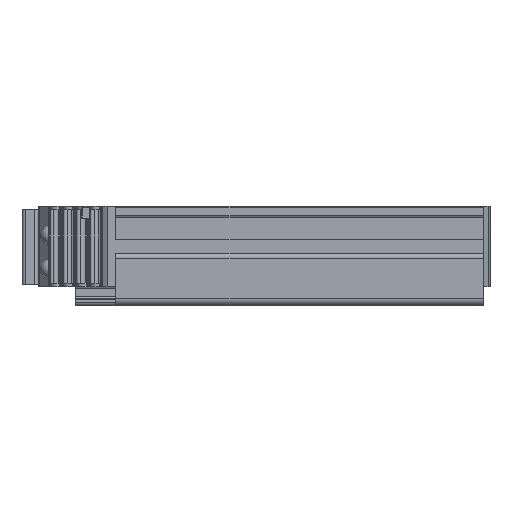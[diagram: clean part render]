
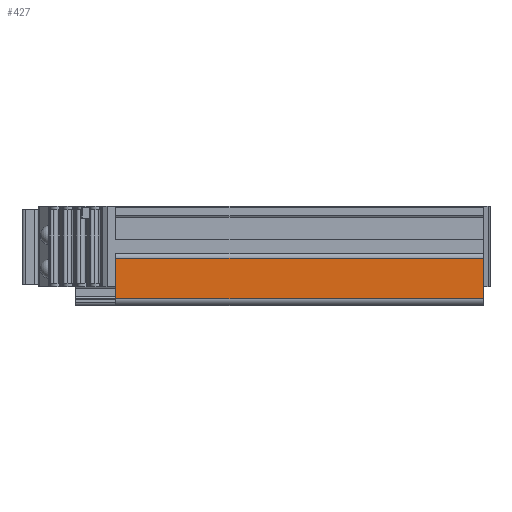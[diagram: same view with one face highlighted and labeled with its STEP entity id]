
A CAD part, left-side view. The second image highlights one B-rep face of the part: STEP entity #427.
In plain terms, the highlighted planar face has unit normal (-1, 0, 0).
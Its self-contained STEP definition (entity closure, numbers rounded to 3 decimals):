
#427 = ADVANCED_FACE( '', ( #1104 ), #1105, .F. );
#1104 = FACE_OUTER_BOUND( '', #2059, .T. );
#1105 = PLANE( '', #2060 );
#2059 = EDGE_LOOP( '', ( #3339, #3340, #3341, #3342 ) );
#2060 = AXIS2_PLACEMENT_3D( '', #3343, #3344, #3345 );
#3339 = ORIENTED_EDGE( '', *, *, #5864, .T. );
#3340 = ORIENTED_EDGE( '', *, *, #5949, .F. );
#3341 = ORIENTED_EDGE( '', *, *, #5950, .F. );
#3342 = ORIENTED_EDGE( '', *, *, #5951, .T. );
#3343 = CARTESIAN_POINT( '', ( -36.2, 48.4, -1.8 ) );
#3344 = DIRECTION( '', ( 1., 0., 0. ) );
#3345 = DIRECTION( '', ( 0., 0., -1. ) );
#5864 = EDGE_CURVE( '', #7140, #7138, #7141, .T. );
#5949 = EDGE_CURVE( '', #7286, #7138, #7287, .T. );
#5950 = EDGE_CURVE( '', #7288, #7286, #7289, .T. );
#5951 = EDGE_CURVE( '', #7288, #7140, #7290, .T. );
#7138 = VERTEX_POINT( '', #8950 );
#7140 = VERTEX_POINT( '', #8952 );
#7141 = LINE( '', #8953, #8954 );
#7286 = VERTEX_POINT( '', #9138 );
#7287 = LINE( '', #9139, #9140 );
#7288 = VERTEX_POINT( '', #9141 );
#7289 = LINE( '', #9142, #9143 );
#7290 = LINE( '', #9144, #9145 );
#8950 = CARTESIAN_POINT( '', ( -36.2, -6.4, 4.3 ) );
#8952 = CARTESIAN_POINT( '', ( -36.2, -6.4, -1.8 ) );
#8953 = CARTESIAN_POINT( '', ( -36.2, -6.4, -1.8 ) );
#8954 = VECTOR( '', #10898, 1000. );
#9138 = CARTESIAN_POINT( '', ( -36.2, 48.4, 4.3 ) );
#9139 = CARTESIAN_POINT( '', ( -36.2, 48.4, 4.3 ) );
#9140 = VECTOR( '', #11019, 1000. );
#9141 = CARTESIAN_POINT( '', ( -36.2, 48.4, -1.8 ) );
#9142 = CARTESIAN_POINT( '', ( -36.2, 48.4, -1.8 ) );
#9143 = VECTOR( '', #11020, 1000. );
#9144 = CARTESIAN_POINT( '', ( -36.2, 48.4, -1.8 ) );
#9145 = VECTOR( '', #11021, 1000. );
#10898 = DIRECTION( '', ( 0., 0., 1. ) );
#11019 = DIRECTION( '', ( 0., -1., 0. ) );
#11020 = DIRECTION( '', ( 0., 0., 1. ) );
#11021 = DIRECTION( '', ( 0., -1., 0. ) );
